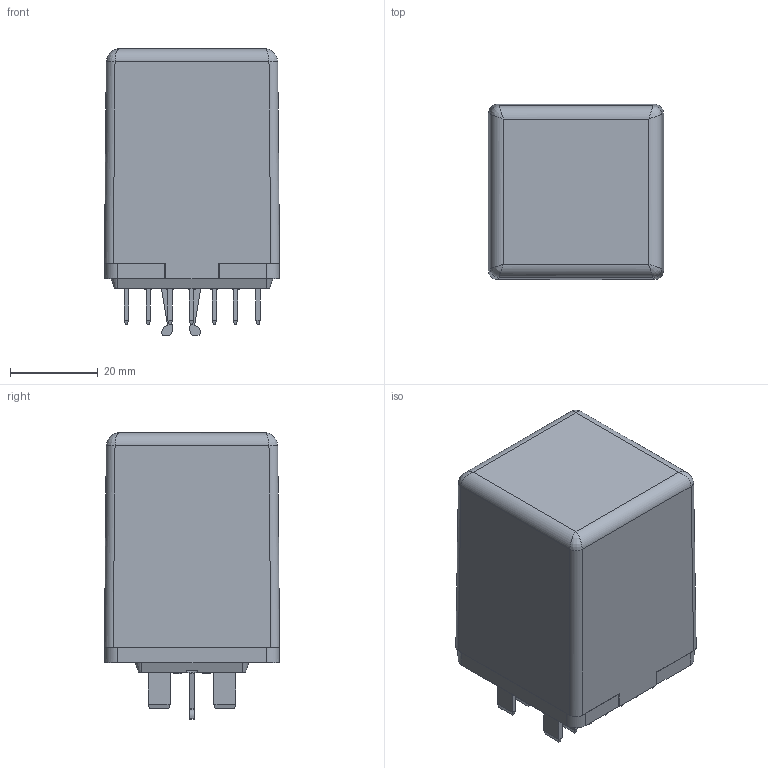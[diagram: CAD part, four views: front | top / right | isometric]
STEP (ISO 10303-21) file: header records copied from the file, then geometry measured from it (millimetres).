
FILE_DESCRIPTION((''),'2;1');
FILE_NAME('I:\TI\Bibliotheek\Inventor\Relais\D\Montpl+kap laag.stp','2010-09-16T14:12:08',('oey'),(''),'Autodesk Inventor 2011','Autodesk Inventor 2011','');
FILE_SCHEMA(('AUTOMOTIVE_DESIGN { 1 0 10303 214 1 1 1 1 }'));
Length unit declared in the file: millimetre
Products named in the file (1): Montpl+kap laag
Bounding box: 40 x 40.06 x 65.4 mm (x, y, z)
Volume: 25768.5 mm3; surface area: 24384.3 mm2
Topology: 1 solids, 1 shells, 597 faces, 1570 edges, 1014 vertices
Faces by surface type: plane 424, bspline 88, cylinder 80, cone 4, torus 1
Full cylindrical faces by diameter (mm): 1.7 x1, 2.7 x1, 4 x8
Entity records: 19532 total; most frequent: CARTESIAN_POINT 4663, ORIENTED_EDGE 3106, DIRECTION 2579, EDGE_CURVE 1553, VECTOR 1195, LINE 1195, VERTEX_POINT 1012, AXIS2_PLACEMENT_3D 692
